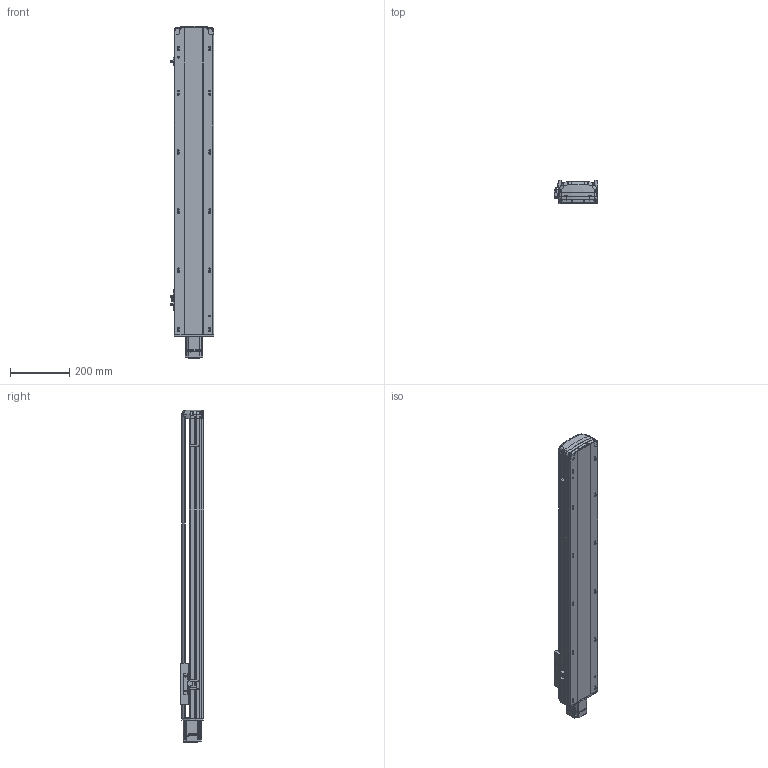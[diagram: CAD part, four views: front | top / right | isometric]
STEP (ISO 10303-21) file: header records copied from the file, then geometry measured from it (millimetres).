
FILE_DESCRIPTION (( 'STEP AP214' ), '1' );
FILE_NAME ('RTH14-XX-800-E-M20-C4.STEP', '2025-10-24T09:13:30', ( 'Microsoft' ), ( 'Microsoft' ), 'SwSTEP 2.0', 'SolidWorks 2018', '' );
FILE_SCHEMA (( 'AUTOMOTIVE_DESIGN' ));
Length unit declared in the file: millimetre
Products named in the file (9): N_RTH14-GY-001P^RTH14-XX-XX-E-M20-C4; N_OMRON EE-SX672 传感器^RTH14-XX-XX-E-M20-C4; N_RTH14-E-011P菁釱^RTH14-XX-XX-E-M20-C4; N_RTH13-E-008萇儂耜猾裔^RTH14-XX-XX-E-M20-C4; RTH14-XX-800-E-M20-C4; N_RTH14-E-007P奻裔^RTH14-XX-XX-E-M20-C4; N_RTH14-R-004-SFSR16賑釱^RTH14-XX-XX-E-M20-C4; N_RTH13-L-012感应片（外置）^RTH14-XX-XX-E-M20-C4; N_MSMD022P1AA_200W^RTH14-XX-XX-E-M20-C4
Assembly tree (10 placements, depth 2):
  RTH14-XX-800-E-M20-C4
    N_RTH14-E-011P菁釱^RTH14-XX-XX-E-M20-C4
    N_RTH14-E-007P奻裔^RTH14-XX-XX-E-M20-C4
    N_MSMD022P1AA_200W^RTH14-XX-XX-E-M20-C4
    N_RTH13-L-012感应片（外置）^RTH14-XX-XX-E-M20-C4
    N_OMRON EE-SX672 传感器^RTH14-XX-XX-E-M20-C4  x3
    N_RTH13-E-008萇儂耜猾裔^RTH14-XX-XX-E-M20-C4
    N_RTH14-R-004-SFSR16賑釱^RTH14-XX-XX-E-M20-C4
    N_RTH14-GY-001P^RTH14-XX-XX-E-M20-C4
Bounding box: 148.5 x 78.03 x 1122.49 mm (x, y, z)
Volume: 4613326.2 mm3; surface area: 1016115.9 mm2
Topology: 10 solids, 10 shells, 1881 faces, 5296 edges, 3480 vertices
Faces by surface type: plane 979, cylinder 512, bspline 341, cone 45, torus 4
Entity records: 57742 total; most frequent: CARTESIAN_POINT 22986, ORIENTED_EDGE 7660, DIRECTION 6205, EDGE_CURVE 3830, VERTEX_POINT 2516, VECTOR 2181, LINE 2181, AXIS2_PLACEMENT_3D 2012
